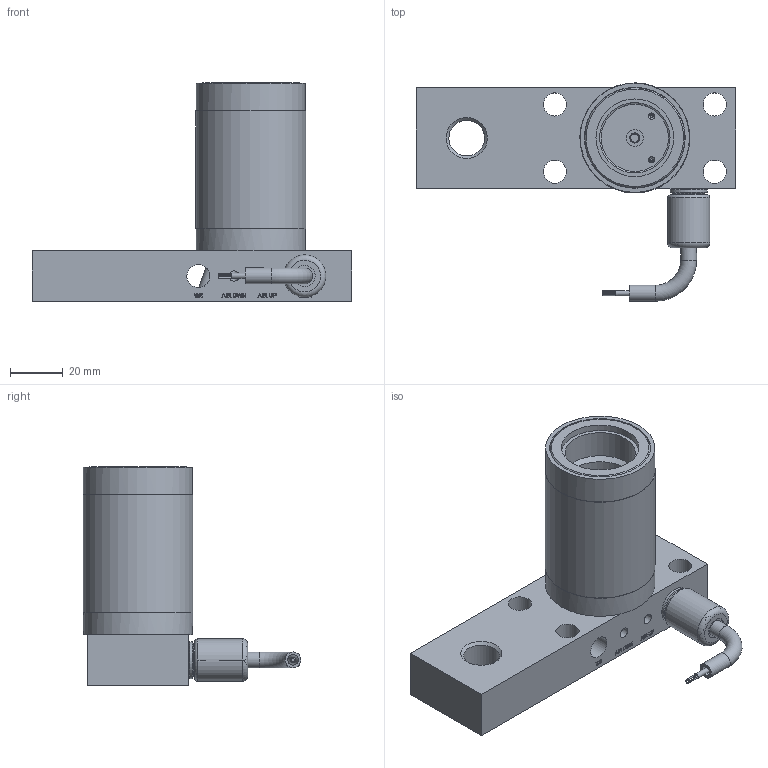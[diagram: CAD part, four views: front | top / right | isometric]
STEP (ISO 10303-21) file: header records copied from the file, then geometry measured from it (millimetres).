
FILE_DESCRIPTION(/* description */ ('ASSY,BODY,VF,LVDT,SXHR4,NHP'),/* implementation_level */ '2;1');
FILE_NAME(/* name */ 'C:\LVDT UPDATES\ASSY,BODY,VF,LVDT,SXHR4,NHP_0000838918.stp',/* time_stamp */ '2017-06-09T11:57:44-04:00',/* author */ ('tim.mcwilliams'),/* organization */ (''),/* preprocessor_version */ 'ST-DEVELOPER v16.5',/* originating_system */ 'Autodesk Inventor 2017',/* authorisation */ '');
FILE_SCHEMA (('AUTOMOTIVE_DESIGN { 1 0 10303 214 3 1 1 }'));
Length unit declared in the file: millimetre
Products named in the file (1): ASSY,BODY,VF,LVDT,SXHR4,NHP
Bounding box: 120.65 x 82.34 x 82.55 mm (x, y, z)
Volume: 142660.8 mm3; surface area: 61278.6 mm2
Topology: 3 solids, 7 shells, 1225 faces, 3224 edges, 2131 vertices
Faces by surface type: plane 614, bspline 413, cylinder 132, cone 48, torus 12, sphere 6
Full cylindrical faces by diameter (mm): 0.5 x4, 0.55 x4, 2 x1, 2.381 x2, 3.15 x2, 3.175 x4, 3.81 x1, 3.962 x4, 4 x3, 4.763 x3, 6 x3, 6.35 x1, 8 x1, 8.731 x8, 10 x1, 12.01 x1, 12.141 x1, 12.7 x2, 13.487 x1, 13.665 x1, 13.716 x1, 14 x2, 15.206 x1, 16 x1, 25.425 x1, 26.591 x1, 29.369 x1, 35.103 x3, 37.846 x4, 38.1 x2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
Entity records: 93222 total; most frequent: CARTESIAN_POINT 64868, ORIENTED_EDGE 6090, DIRECTION 4310, EDGE_CURVE 3044, VERTEX_POINT 2062, LINE 1800, VECTOR 1800, EDGE_LOOP 1488
